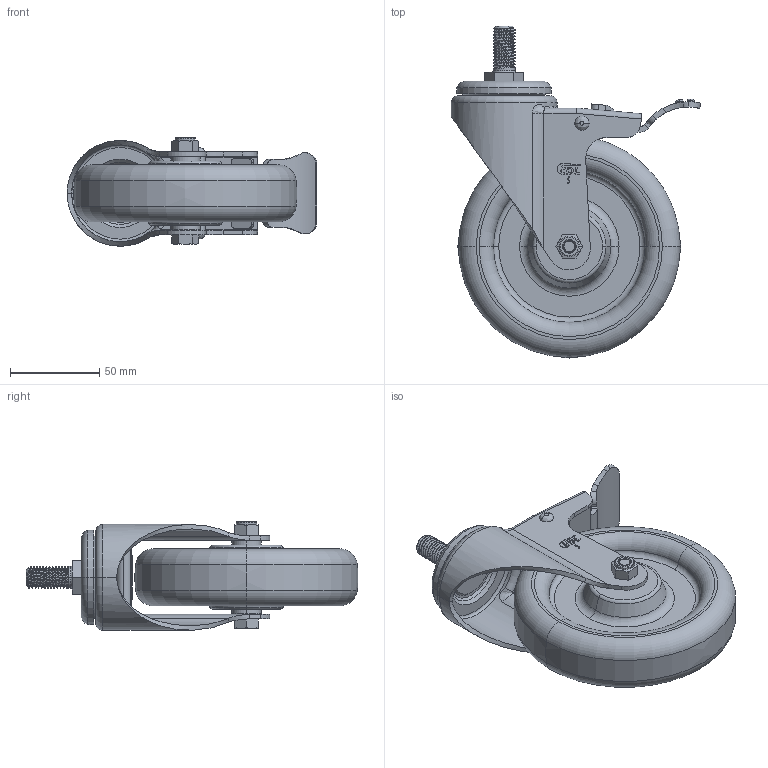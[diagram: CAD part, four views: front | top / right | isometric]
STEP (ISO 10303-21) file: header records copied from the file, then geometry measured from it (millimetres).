
FILE_DESCRIPTION((''),'2;1');
FILE_NAME('S54745L_ASM','2021-08-10T',('lenovo'),(''),'PRO/ENGINEER BY PARAMETRIC TECHNOLOGY CORPORATION, 2010280','PRO/ENGINEER BY PARAMETRIC TECHNOLOGY CORPORATION, 2010280','');
FILE_SCHEMA(('CONFIG_CONTROL_DESIGN'));
Length unit declared in the file: millimetre
Products named in the file (7): S545-12; S540-23; 505-986; S540-33; S540-34; S540-14; S54745L_ASM
Assembly tree (6 placements, depth 2):
  S54745L_ASM
    S545-12
    S540-23
    505-986
    S540-33
    S540-34
    S540-14
Bounding box: 139.79 x 185.95 x 60.8 mm (x, y, z)
Volume: 358540.1 mm3; surface area: 86287.1 mm2
Topology: 10 solids, 10 shells, 403 faces, 966 edges, 600 vertices
Faces by surface type: plane 175, cylinder 111, bspline 43, cone 38, torus 36
Entity records: 17463 total; most frequent: CARTESIAN_POINT 8191, ORIENTED_EDGE 1932, DIRECTION 1830, EDGE_CURVE 966, AXIS2_PLACEMENT_3D 660, VERTEX_POINT 600, VECTOR 510, LINE 510
